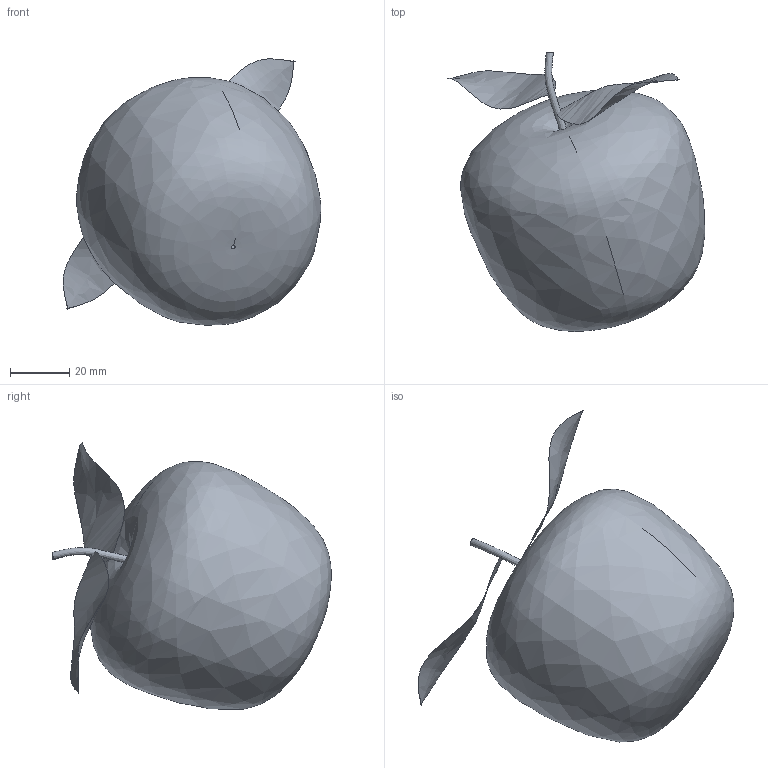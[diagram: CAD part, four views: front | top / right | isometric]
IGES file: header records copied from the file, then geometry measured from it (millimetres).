
Global section: file name: SURF114.IGS; native system: {unspecified}; preprocessor: {unspecified}; author:  DAHarrod * dennette@wiz-worx.com; organization:  WiZ WORX * http://www.wiz-worx.com; date: 950818.162944; units: inch
Bounding box: 87.28 x 94.61 x 90.28 mm (x, y, z)
Surface area: 23771.4 mm2 (no closed solid volume)
Topology: 0 solids, 0 shells, 4 faces, 16 edges, 16 vertices
Faces by surface type: bspline 4
